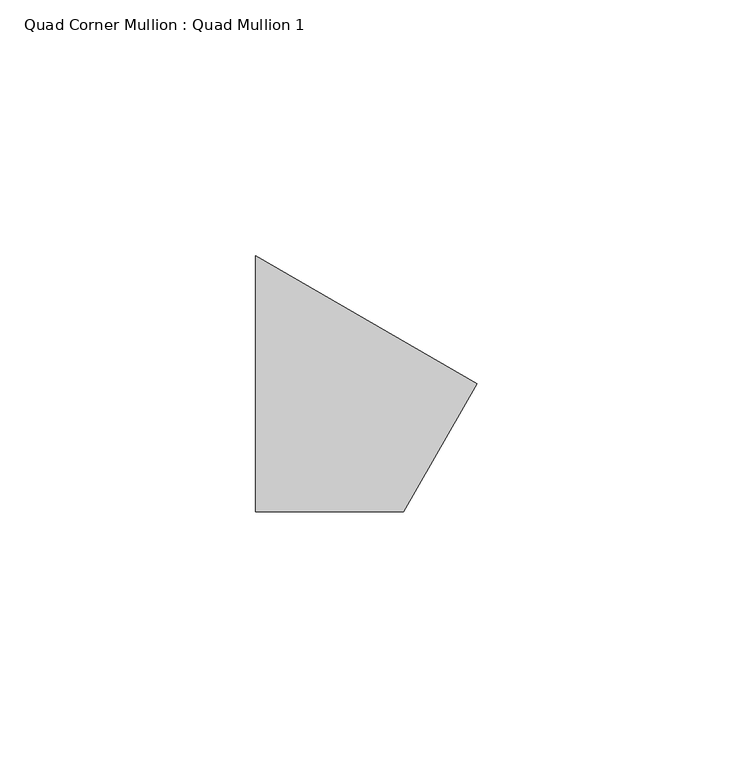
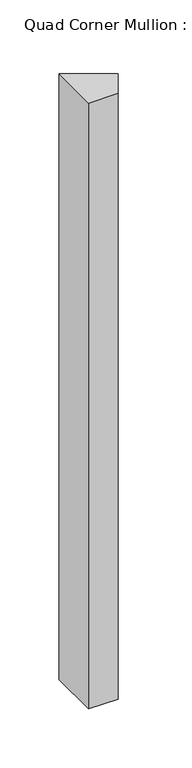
"""IFC4 building model written with IfcOpenShell, lengths in millimetres: member geometry, Quad Corner Mullion : Quad Mullion 1."""

from ifc_helpers import new_model, si_unit, frame, origin, place, context, project, spatial, polyline, outline, extrude, source, transform, mapped, element, save


def quad_corner_mullion_quad_mullion_1_027d4a62(model_context):
    return source(origin(), model_context, "Body", "SweptSolid", [
        extrude(outline(polyline([(28.8675135, 0.0), (14.4337567, -25.0), (-14.4337567, -25.0), (-14.4337567, 25.0), (28.8675135, 0.0)])), frame((0.0, 0.0, -625.9116317), z_axis=(0.0, 0.0, 1.0), x_axis=(1.0, 0.0, 0.0)), (0.0, 0.0, 1.0), 625.9116317),
    ])


if __name__ == "__main__":
    model = new_model("IFC4")
    model_context = context("Model", 3, world=origin())
    ifc_project = project(units=[si_unit("LENGTHUNIT", "METRE", prefix="MILLI")], contexts=[model_context])
    site = spatial("IfcSite", under=ifc_project)
    building = spatial("IfcBuilding", under=site)
    placement = place(None, origin())
    quad_corner_mullion_quad_mullion_1_shape = quad_corner_mullion_quad_mullion_1_027d4a62(model_context)
    element("IfcMember", 1, ObjectType="Quad Corner Mullion : Quad Mullion 1", at=placement, inside=building, context=model_context, shape_type="MappedRepresentation", body=[
        mapped(quad_corner_mullion_quad_mullion_1_shape, transform((0.0, 0.0, 0.0), x_axis=(1.0, 0.0, 0.0), y_axis=(0.0, 1.0, 0.0), z_axis=(0.0, 0.0, 1.0))),
    ])
    save(model, "model.ifc")
